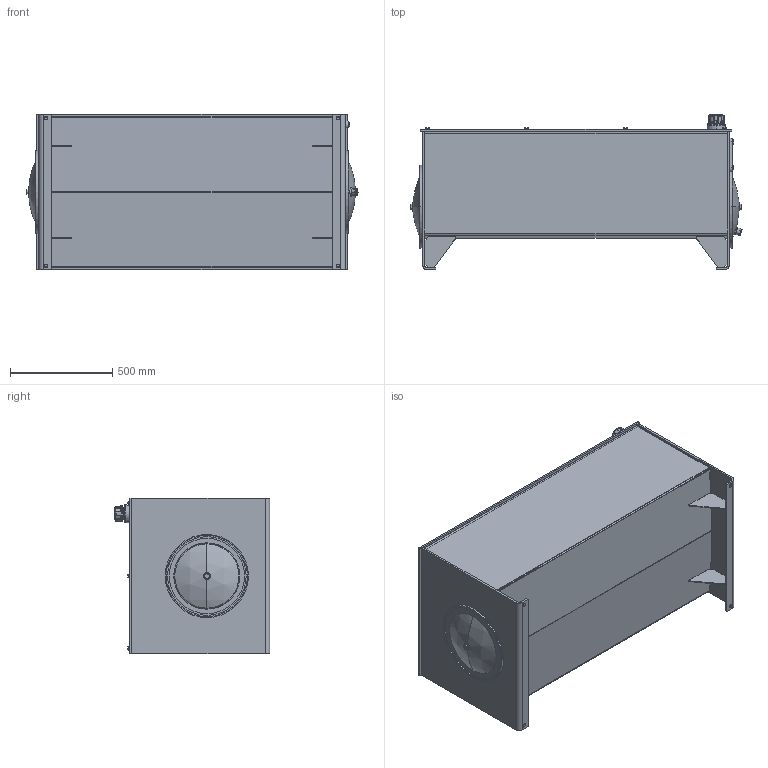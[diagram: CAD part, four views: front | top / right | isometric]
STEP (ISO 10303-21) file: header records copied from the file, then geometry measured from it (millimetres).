
FILE_DESCRIPTION (( 'STEP AP203' ), '1' );
FILE_NAME ('RJIC120-RT.STEP', '2015-01-08T15:45:24', ( '' ), ( '' ), 'SwSTEP 2.0', 'SolidWorks 2014', '' );
FILE_SCHEMA (( 'CONFIG_CONTROL_DESIGN' ));
Length unit declared in the file: inch
Products named in the file (1): RJIC120-RT
Bounding box: 1624.13 x 760.73 x 762 mm (x, y, z)
Volume: 33278772.5 mm3; surface area: 12338807.5 mm2
Topology: 48 solids, 48 shells, 1075 faces, 2459 edges, 1504 vertices
Faces by surface type: plane 400, cylinder 368, torus 123, cone 104, bspline 48, sphere 32
Entity records: 33380 total; most frequent: CARTESIAN_POINT 8488, DIRECTION 5516, ORIENTED_EDGE 4894, EDGE_CURVE 2447, AXIS2_PLACEMENT_3D 2189, VERTEX_POINT 1504, EDGE_LOOP 1243, CIRCLE 1161
